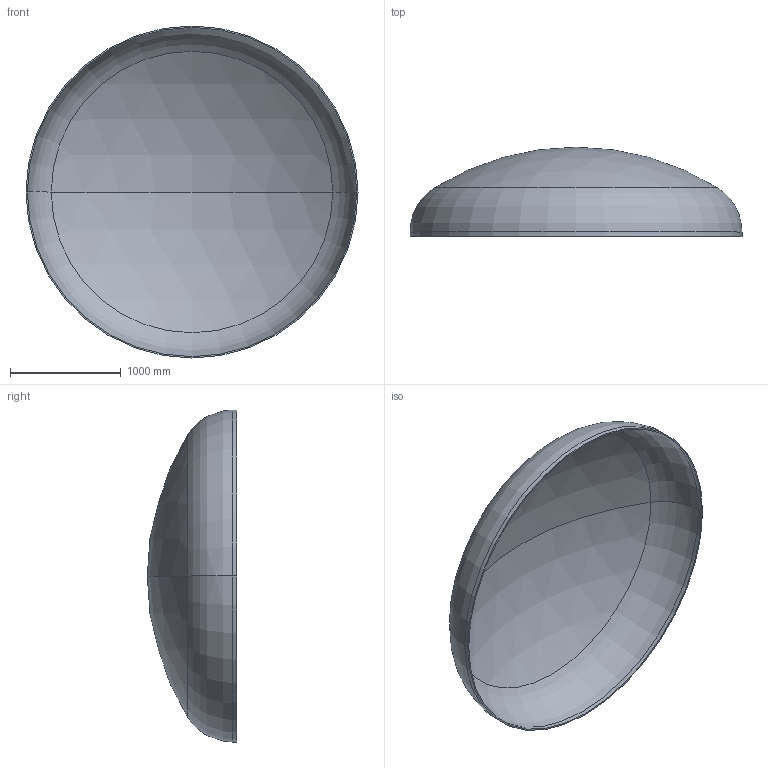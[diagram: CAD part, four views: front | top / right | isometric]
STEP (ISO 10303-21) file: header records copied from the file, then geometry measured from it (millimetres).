
FILE_DESCRIPTION (( 'STEP AP203' ), '1' );
FILE_NAME ('DIN 28013 Korbbogenform_-_Boden DIN 28013 - 3000 x 40 - I - s=12.step', '2016-07-01T17:29:31', ( '' ), ( '' ), 'SwSTEP 2.0', 'SolidWorks 2013', '' );
FILE_SCHEMA (( 'CONFIG_CONTROL_DESIGN' ));
Length unit declared in the file: millimetre
Products named in the file (1): DIN 28013 Korbbogenform_-_Boden DIN 28013 - 3000 x 40 - I - s=12
Bounding box: 3000 x 806.76 x 3000 mm (x, y, z)
Volume: 121272409.6 mm3; surface area: 20325006.7 mm2
Topology: 1 solids, 1 shells, 13 faces, 24 edges, 14 vertices
Faces by surface type: torus 4, cylinder 4, sphere 4, plane 1
Entity records: 407 total; most frequent: DIRECTION 72, CARTESIAN_POINT 52, ORIENTED_EDGE 48, AXIS2_PLACEMENT_3D 34, EDGE_CURVE 24, CIRCLE 20, EDGE_LOOP 14, VERTEX_POINT 14
